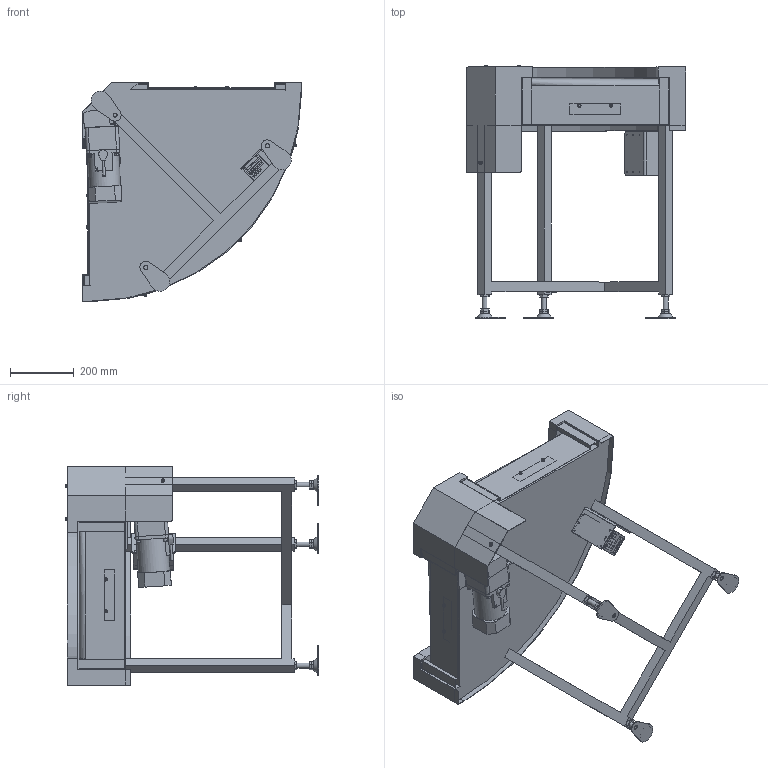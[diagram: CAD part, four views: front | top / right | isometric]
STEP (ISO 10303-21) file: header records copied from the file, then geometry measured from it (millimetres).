
FILE_DESCRIPTION( (''), '2;1');
FILE_NAME ('WEB-MBC2H-UD-320-400-90°-L-IVH-5-O-H.stp','2025-07-31T13:23:41',(''),(''),'spGate 20.6.2 (****-****-****-****)','','');
FILE_SCHEMA (('AUTOMOTIVE_DESIGN'));
Length unit declared in the file: millimetre
Products named in the file (36): WEB-MBC2H-UD-320-400-90_-L-IVH-5-O-H; TEMP_X_T-prt0; TEMP_X_T-prt1; TEMP_X_T-prt2; TEMP_X_T-prt3; TEMP_X_T-prt4; TEMP_X_T-prt5; TEMP_X_T-prt6; TEMP_X_T-prt7; TEMP_X_T-prt8; TEMP_X_T-prt9; TEMP_X_T-prt10; TEMP_X_T-prt11; TEMP_X_T-prt12; TEMP_X_T-prt13; TEMP_X_T-prt14; TEMP_X_T-prt15; TEMP_X_T-prt16; TEMP_X_T-prt17; TEMP_X_T-prt18; TEMP_X_T-prt19; TEMP_X_T-prt20; TEMP_X_T-prt21; TEMP_X_T-prt22; TEMP_X_T-prt23; TEMP_X_T-prt24; TEMP_X_T-prt25; TEMP_X_T-prt26; TEMP_X_T-prt27; TEMP_X_T-prt28; TEMP_X_T-prt29; TEMP_X_T-prt30; TEMP_X_T-prt31; TEMP_X_T-prt32; TEMP_X_T-prt33; TEMP_X_T-prt34
Assembly tree (35 placements, depth 2):
  WEB-MBC2H-UD-320-400-90_-L-IVH-5-O-H
    TEMP_X_T-prt0
    TEMP_X_T-prt1
    TEMP_X_T-prt2
    TEMP_X_T-prt3
    TEMP_X_T-prt4
    TEMP_X_T-prt5
    TEMP_X_T-prt6
    TEMP_X_T-prt7
    TEMP_X_T-prt8
    TEMP_X_T-prt9
    TEMP_X_T-prt10
    TEMP_X_T-prt11
    TEMP_X_T-prt12
    TEMP_X_T-prt13
    TEMP_X_T-prt14
    TEMP_X_T-prt15
    TEMP_X_T-prt16
    TEMP_X_T-prt17
    TEMP_X_T-prt18
    TEMP_X_T-prt19
    TEMP_X_T-prt20
    TEMP_X_T-prt21
    TEMP_X_T-prt22
    TEMP_X_T-prt23
    TEMP_X_T-prt24
    TEMP_X_T-prt25
    TEMP_X_T-prt26
    TEMP_X_T-prt27
    TEMP_X_T-prt28
    TEMP_X_T-prt29
    TEMP_X_T-prt30
    TEMP_X_T-prt31
    TEMP_X_T-prt32
    TEMP_X_T-prt33
    TEMP_X_T-prt34
Bounding box: 688.1 x 794.6 x 688.1 mm (x, y, z)
Volume: 40632920.9 mm3; surface area: 3073939.2 mm2
Topology: 35 solids, 46 shells, 1513 faces, 3930 edges, 2660 vertices
Faces by surface type: plane 1130, cylinder 253, bspline 128, sphere 2
Full cylindrical faces by diameter (mm): 3.3 x6, 3.5 x12, 3.8 x2, 4 x11, 5 x5, 5.8 x10, 6 x4, 6.4 x7, 6.5 x2, 6.6 x2, 7 x5, 7.5 x1, 7.8 x1, 8 x6, 8.5 x8, 9 x14, 9.2 x12, 10 x16, 12.04 x1, 12.5 x7, 13 x7, 16 x9, 18 x1, 20 x1, 23 x1, 42 x1, 43 x1, 94 x1, 99 x1
Entity records: 83265 total; most frequent: CARTESIAN_POINT 13867, ORIENTED_EDGE 7852, DIRECTION 7365, COLOUR_RGB 5474, PRESENTATION_STYLE_ASSIGNMENT 5474, STYLED_ITEM 5474, EDGE_CURVE 3926, DRAUGHTING_PRE_DEFINED_CURVE_FONT 3926
